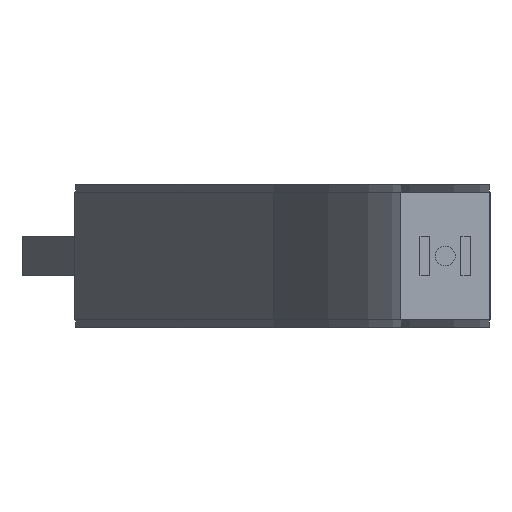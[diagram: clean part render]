
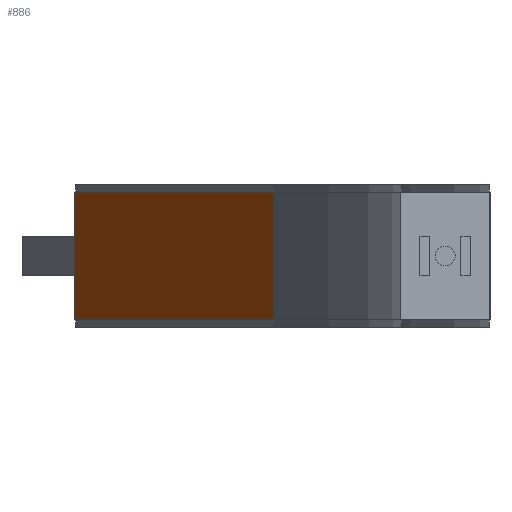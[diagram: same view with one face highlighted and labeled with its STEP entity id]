
A CAD part, left-side view. The second image highlights one B-rep face of the part: STEP entity #886.
In plain terms, the highlighted planar face has unit normal (-0.5, 0.866, 0).
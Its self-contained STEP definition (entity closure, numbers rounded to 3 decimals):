
#76=FACE_OUTER_BOUND('',#128,.T.);
#128=EDGE_LOOP('',(#610,#611,#612,#613));
#180=LINE('',#1285,#290);
#181=LINE('',#1287,#291);
#182=LINE('',#1289,#292);
#183=LINE('',#1290,#293);
#290=VECTOR('',#1035,10.);
#291=VECTOR('',#1036,10.);
#292=VECTOR('',#1037,10.);
#293=VECTOR('',#1038,10.);
#400=VERTEX_POINT('',#1283);
#401=VERTEX_POINT('',#1284);
#402=VERTEX_POINT('',#1286);
#403=VERTEX_POINT('',#1288);
#484=EDGE_CURVE('',#400,#401,#180,.T.);
#485=EDGE_CURVE('',#401,#402,#181,.T.);
#486=EDGE_CURVE('',#403,#402,#182,.T.);
#487=EDGE_CURVE('',#400,#403,#183,.T.);
#610=ORIENTED_EDGE('',*,*,#484,.T.);
#611=ORIENTED_EDGE('',*,*,#485,.T.);
#612=ORIENTED_EDGE('',*,*,#486,.F.);
#613=ORIENTED_EDGE('',*,*,#487,.F.);
#842=PLANE('',#962);
#886=ADVANCED_FACE('',(#76),#842,.T.);
#962=AXIS2_PLACEMENT_3D('',#1282,#1033,#1034);
#1033=DIRECTION('center_axis',(-0.5,0.866,0.));
#1034=DIRECTION('ref_axis',(0.,0.,
1.));
#1035=DIRECTION('',(0.,0.,1.));
#1036=DIRECTION('',(0.866,0.5,0.));
#1037=DIRECTION('',(0.,0.,1.));
#1038=DIRECTION('',(0.866,0.5,0.));
#1282=CARTESIAN_POINT('Origin',(438.75,86.473,-32.1));
#1283=CARTESIAN_POINT('',(438.75,86.473,-32.1));
#1284=CARTESIAN_POINT('',(438.75,86.473,32.1));
#1285=CARTESIAN_POINT('',(438.75,86.473,32.1));
#1286=CARTESIAN_POINT('',(611.955,186.473,32.1));
#1287=CARTESIAN_POINT('',(438.75,86.473,32.1));
#1288=CARTESIAN_POINT('',(611.955,186.473,-32.1));
#1289=CARTESIAN_POINT('',(611.955,186.473,32.1));
#1290=CARTESIAN_POINT('',(438.75,86.473,-32.1));
